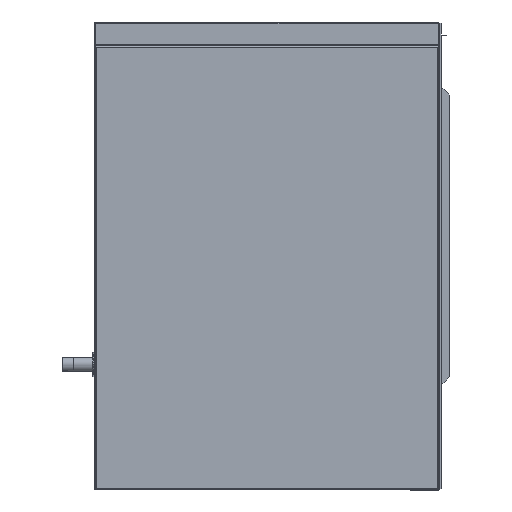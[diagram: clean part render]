
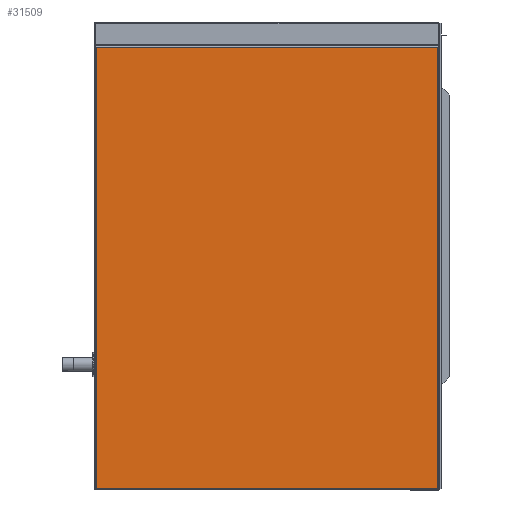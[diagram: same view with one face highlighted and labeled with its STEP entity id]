
A CAD part, left-side view. The second image highlights one B-rep face of the part: STEP entity #31509.
In plain terms, the highlighted planar face has unit normal (-1, 0, 0).
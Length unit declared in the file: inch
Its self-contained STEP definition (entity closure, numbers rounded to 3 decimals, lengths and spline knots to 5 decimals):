
#1402 = FACE_OUTER_BOUND ( 'NONE', #49225, .T. ) ;
#2424 = DIRECTION ( 'NONE',  ( 0., 1., 0. ) ) ;
#4867 = DIRECTION ( 'NONE',  ( 0., 0., -1. ) ) ;
#5534 = CARTESIAN_POINT ( 'NONE',  ( -23.81397, 80.83127, 14.7385 ) ) ;
#6843 = VERTEX_POINT ( 'NONE', #5534 ) ;
#8919 = LINE ( 'NONE', #28884, #35210 ) ;
#11456 = CARTESIAN_POINT ( 'NONE',  ( -23.81397, 80.83127, -13.47861 ) ) ;
#12566 = VERTEX_POINT ( 'NONE', #37262 ) ;
#13179 = PLANE ( 'NONE',  #41177 ) ;
#13556 = CARTESIAN_POINT ( 'NONE',  ( -23.81397, 58.99902, 14.75754 ) ) ;
#15483 = CARTESIAN_POINT ( 'NONE',  ( -23.81397, 80.85031, 14.7385 ) ) ;
#17503 = VERTEX_POINT ( 'NONE', #11456 ) ;
#17668 = ORIENTED_EDGE ( 'NONE', *, *, #20381, .F. ) ;
#18193 = EDGE_CURVE ( 'NONE', #33925, #17503, #8919, .T. ) ;
#20231 = DIRECTION ( 'NONE',  ( 0., 0., 1. ) ) ;
#20381 = EDGE_CURVE ( 'NONE', #6843, #12566, #27804, .T. ) ;
#22181 = EDGE_CURVE ( 'NONE', #17503, #6843, #31227, .T. ) ;
#22694 = EDGE_CURVE ( 'NONE', #12566, #33925, #40421, .T. ) ;
#24499 = ORIENTED_EDGE ( 'NONE', *, *, #18193, .F. ) ;
#25465 = ORIENTED_EDGE ( 'NONE', *, *, #22694, .F. ) ;
#27804 = LINE ( 'NONE', #15483, #40574 ) ;
#28884 = CARTESIAN_POINT ( 'NONE',  ( -23.81397, 58.97999, -13.47861 ) ) ;
#30381 = CARTESIAN_POINT ( 'NONE',  ( -23.81397, 58.99902, -13.47861 ) ) ;
#30804 = ORIENTED_EDGE ( 'NONE', *, *, #22181, .F. ) ;
#31227 = LINE ( 'NONE', #46615, #34293 ) ;
#31509 = ADVANCED_FACE ( 'NONE', ( #1402 ), #13179, .T. ) ;
#33925 = VERTEX_POINT ( 'NONE', #30381 ) ;
#34162 = CARTESIAN_POINT ( 'NONE',  ( -23.81397, 58.91515, -13.56249 ) ) ;
#34293 = VECTOR ( 'NONE', #20231, 39.37008 ) ;
#35210 = VECTOR ( 'NONE', #48342, 39.37008 ) ;
#35225 = DIRECTION ( 'NONE',  ( 0., -1., 0. ) ) ;
#37262 = CARTESIAN_POINT ( 'NONE',  ( -23.81397, 58.99902, 14.7385 ) ) ;
#38454 = VECTOR ( 'NONE', #4867, 39.37008 ) ;
#40421 = LINE ( 'NONE', #13556, #38454 ) ;
#40574 = VECTOR ( 'NONE', #35225, 39.37008 ) ;
#41177 = AXIS2_PLACEMENT_3D ( 'NONE', #34162, #49289, #2424 ) ;
#46615 = CARTESIAN_POINT ( 'NONE',  ( -23.81397, 80.83127, -13.49765 ) ) ;
#48342 = DIRECTION ( 'NONE',  ( 0., 1., 0. ) ) ;
#49225 = EDGE_LOOP ( 'NONE', ( #24499, #25465, #17668, #30804 ) ) ;
#49289 = DIRECTION ( 'NONE',  ( -1., 0., 0. ) ) ;
